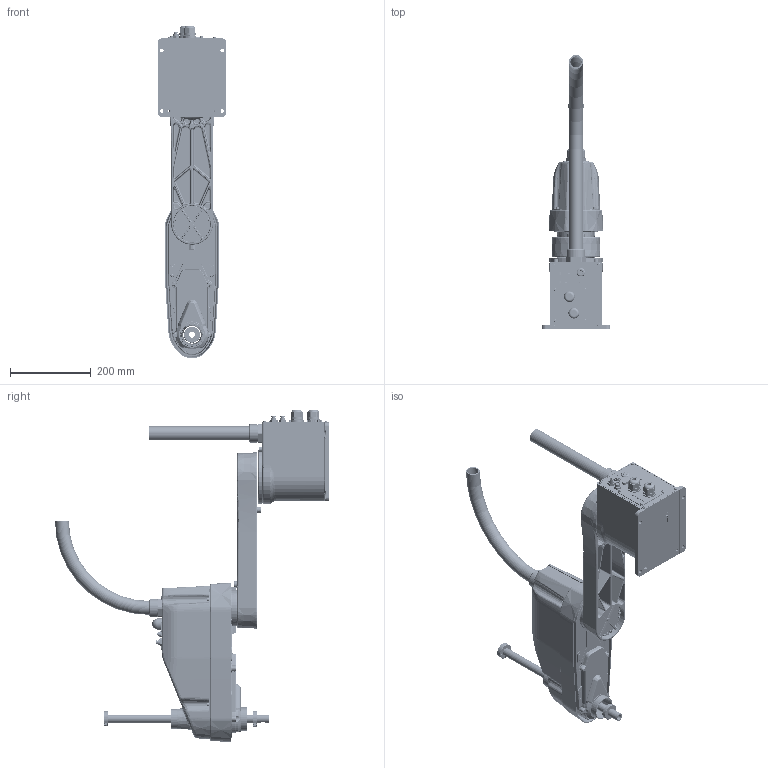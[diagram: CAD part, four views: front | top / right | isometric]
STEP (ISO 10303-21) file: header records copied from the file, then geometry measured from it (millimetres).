
FILE_DESCRIPTION((''),'2;1');
FILE_NAME('LS6_602S_S_ASM','2011-07-27T',('0179539'),(''),'PRO/ENGINEER BY PARAMETRIC TECHNOLOGY CORPORATION, 2007390','PRO/ENGINEER BY PARAMETRIC TECHNOLOGY CORPORATION, 2007390','');
FILE_SCHEMA(('AUTOMOTIVE_DESIGN_CC2 { 1 2 10303 214 -1 1 5 2 }'));
Length unit declared in the file: millimetre
Products named in the file (5): LS6_BASE_S; LS6_J1; LS6_J2; LS6_SHAFT_S; LS6_602S_S_ASM
Assembly tree (4 placements, depth 2):
  LS6_602S_S_ASM
    LS6_BASE_S
    LS6_J1
    LS6_J2
    LS6_SHAFT_S
Bounding box: 169 x 680 x 823.38 mm (x, y, z)
Volume: 3390092.8 mm3; surface area: 1355166.2 mm2
Topology: 4 solids, 4 shells, 4584 faces, 10886 edges, 6762 vertices
Faces by surface type: plane 1633, cylinder 1478, bspline 554, cone 457, torus 381, sphere 75, revolution 6
Entity records: 227157 total; most frequent: CARTESIAN_POINT 90180, DIRECTION 21937, ORIENTED_EDGE 21660, EDGE_CURVE 10830, AXIS2_PLACEMENT_3D 8632, VERTEX_POINT 6762, EDGE_LOOP 5284, VECTOR 4667
